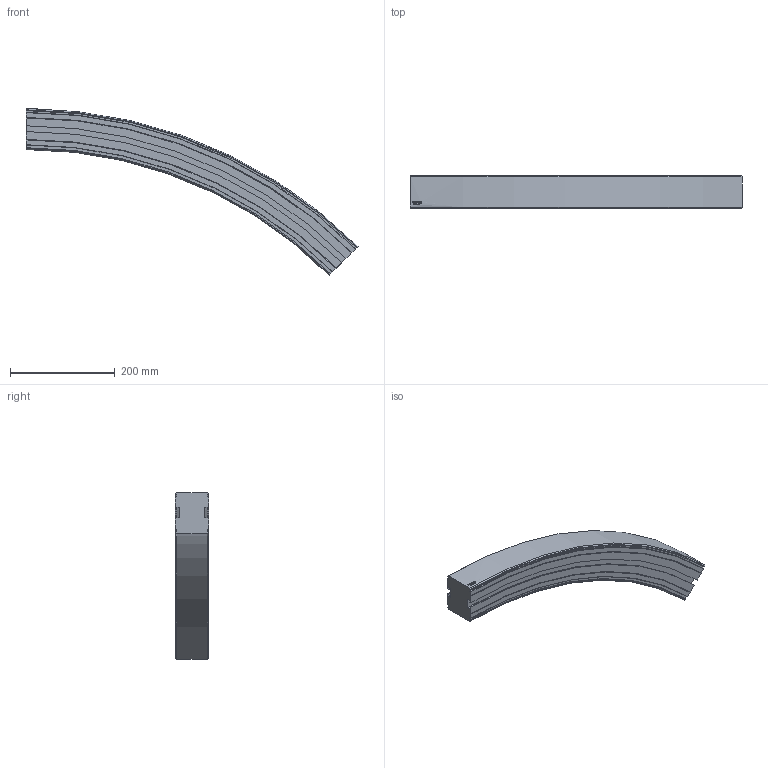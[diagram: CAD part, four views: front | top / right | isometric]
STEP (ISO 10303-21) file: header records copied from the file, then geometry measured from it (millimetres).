
FILE_DESCRIPTION((''),'2;1');
FILE_NAME('C:\Vault Klient\Projekt\Koncept konstruktion\Serie 620 Balk\620-5670_DOWN.stp','2009-11-27T07:32:33',('Mathias'),(''),'Autodesk Inventor 2010','Autodesk Inventor 2010','');
FILE_SCHEMA(('AUTOMOTIVE_DESIGN { 1 0 10303 214 1 1 1 1 }'));
Length unit declared in the file: millimetre
Products named in the file (1): 620-5670_DOWN
Bounding box: 634.98 x 64 x 318.17 mm (x, y, z)
Volume: 3137479.1 mm3; surface area: 252593.5 mm2
Topology: 1 solids, 1 shells, 93 faces, 258 edges, 172 vertices
Faces by surface type: plane 40, cylinder 23, bspline 14, cone 12, torus 4
Entity records: 3454 total; most frequent: CARTESIAN_POINT 1019, ORIENTED_EDGE 516, DIRECTION 472, EDGE_CURVE 258, VERTEX_POINT 172, AXIS2_PLACEMENT_3D 162, VECTOR 148, LINE 148
